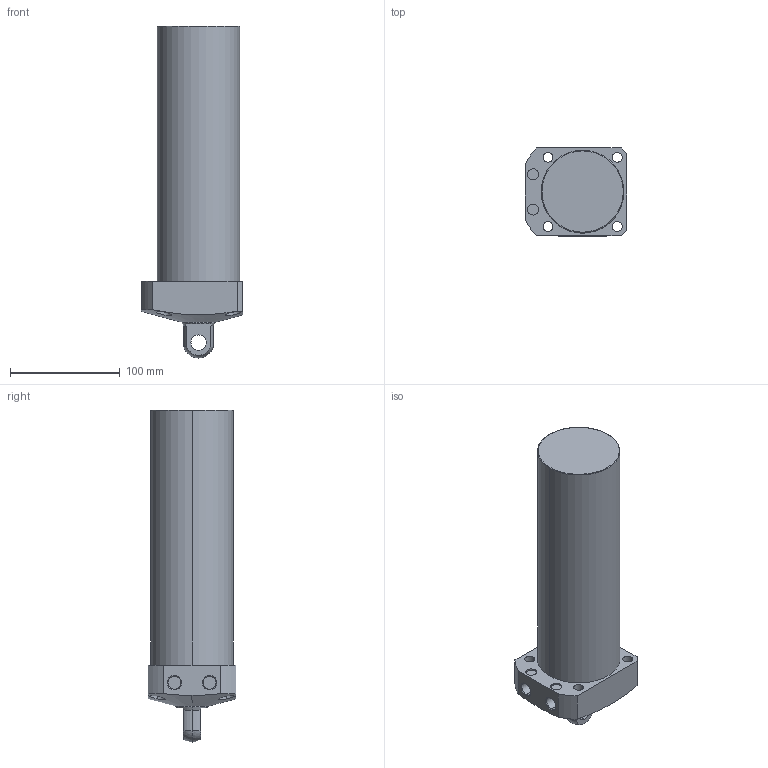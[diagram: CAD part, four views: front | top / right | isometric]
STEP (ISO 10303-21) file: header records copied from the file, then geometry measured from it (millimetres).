
FILE_DESCRIPTION (( 'STEP AP203' ), '1' );
FILE_NAME ('CLL-075CP-195.STEP', '2019-12-25T08:07:04', ( '' ), ( '' ), 'SwSTEP 2.0', 'SolidWorks 2015', '' );
FILE_SCHEMA (( 'CONFIG_CONTROL_DESIGN' ));
Length unit declared in the file: millimetre
Products named in the file (1): CLL-075CP-195
Bounding box: 92 x 80 x 302 mm (x, y, z)
Volume: 1252386.5 mm3; surface area: 86567.4 mm2
Topology: 1 solids, 1 shells, 68 faces, 159 edges, 103 vertices
Faces by surface type: cylinder 35, plane 21, cone 8, sphere 2, torus 2
Entity records: 2459 total; most frequent: CARTESIAN_POINT 762, DIRECTION 357, ORIENTED_EDGE 318, EDGE_CURVE 159, AXIS2_PLACEMENT_3D 149, VERTEX_POINT 103, EDGE_LOOP 88, CIRCLE 80
